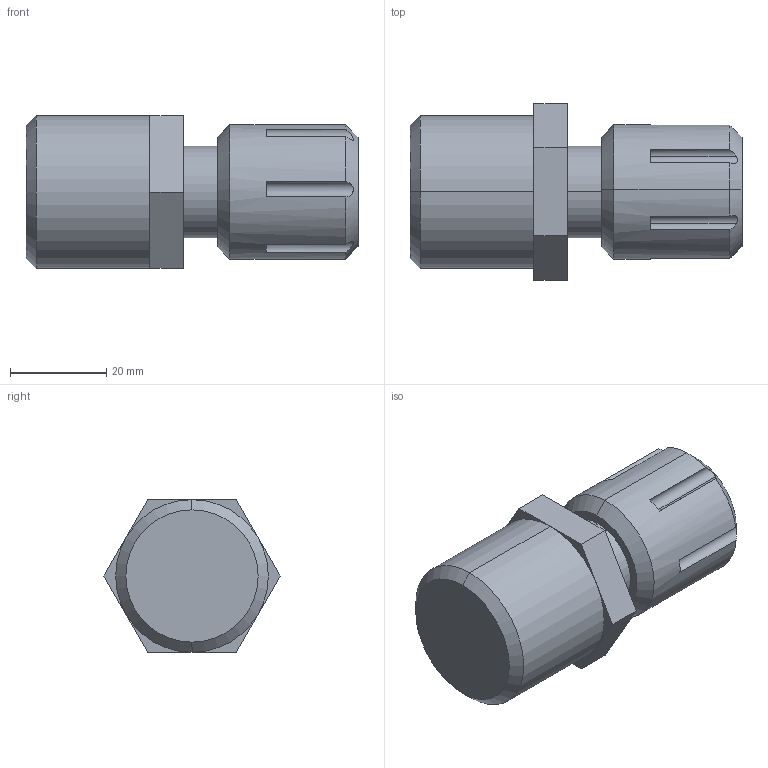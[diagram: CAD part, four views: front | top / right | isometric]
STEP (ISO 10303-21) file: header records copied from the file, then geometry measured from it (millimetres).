
FILE_DESCRIPTION (( 'STEP AP214' ), '1' );
FILE_NAME ('Fitting Flaretek Compatible 08.STEP', '2012-09-28T19:20:47', ( '' ), ( '' ), 'SwSTEP 2.0', 'SolidWorks 2012', '' );
FILE_SCHEMA (( 'AUTOMOTIVE_DESIGN' ));
Length unit declared in the file: inch
Products named in the file (1): Fitting Flaretek Compatible 08
Bounding box: 69.06 x 36.66 x 31.75 mm (x, y, z)
Volume: 44371.5 mm3; surface area: 8771.9 mm2
Topology: 1 solids, 1 shells, 45 faces, 106 edges, 66 vertices
Faces by surface type: plane 23, cylinder 16, cone 6
Entity records: 1728 total; most frequent: CARTESIAN_POINT 368, DIRECTION 236, ORIENTED_EDGE 212, EDGE_CURVE 106, AXIS2_PLACEMENT_3D 92, VERTEX_POINT 66, LINE 52, VECTOR 52
